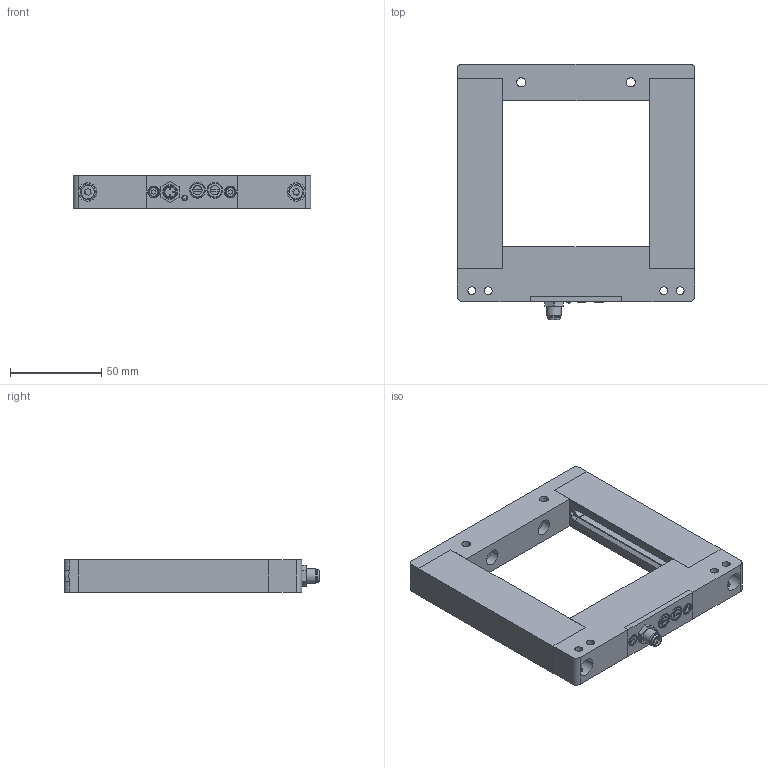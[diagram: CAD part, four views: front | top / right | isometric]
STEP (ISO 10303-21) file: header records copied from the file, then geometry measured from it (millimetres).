
FILE_DESCRIPTION(/* description */ (''),/* implementation_level */ '2;1');
FILE_NAME(/* name */ 'C:\#Vault-WorkDir\Konstruktions-Dokumente\Projekte\Rahmenlichtschranke\153-00294 FG 80 I-PSM3.stp',/* time_stamp */ '2014-12-18T09:46:21+01:00',/* author */ ('sandra.stahl'),/* organization */ (''),/* preprocessor_version */ 'ST-DEVELOPER v15.2',/* originating_system */ 'Autodesk Inventor 2014',/* authorisation */ '');
FILE_SCHEMA (('AUTOMOTIVE_DESIGN { 1 0 10303 214 3 1 1 }'));
Length unit declared in the file: millimetre
Products named in the file (1): GH-ENG-0008793
Bounding box: 130 x 140 x 18 mm (x, y, z)
Volume: 142336.2 mm3; surface area: 67179.8 mm2
Topology: 18 solids, 18 shells, 471 faces, 1154 edges, 754 vertices
Faces by surface type: plane 271, cylinder 151, cone 34, torus 9, sphere 4, bspline 2
Full cylindrical faces by diameter (mm): 0.6 x3, 1 x6, 2.5 x4, 2.8 x2, 3 x9, 3.2 x4, 3.3 x2, 3.8 x1, 4 x2, 4.2 x4, 4.3 x6, 5 x8, 5.4 x4, 5.5 x2, 5.8 x1, 6.2 x1, 6.4 x1, 6.8 x2, 7.2 x3, 8 x3, 8.1 x1, 8.4 x2, 8.5 x2, 8.7 x2, 9 x2, 10 x2
Entity records: 14159 total; most frequent: CARTESIAN_POINT 3267, DIRECTION 2240, ORIENTED_EDGE 1954, EDGE_CURVE 977, AXIS2_PLACEMENT_3D 819, VERTEX_POINT 697, EDGE_LOOP 684, LINE 602
